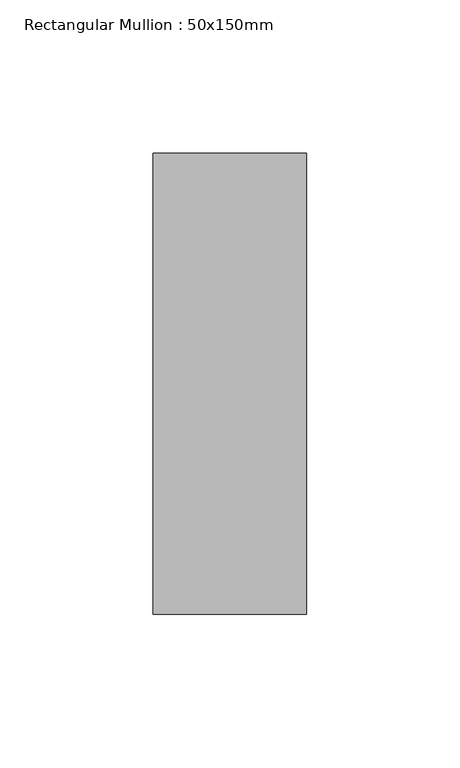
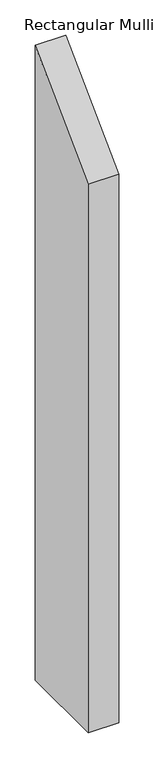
"""IFC4 building model written with IfcOpenShell, lengths in millimetres: member geometry, Rectangular Mullion : 50x150mm."""

from ifc_helpers import new_model, si_unit, frame, origin, place, context, project, spatial, polyline, outline, extrude, source, transform, mapped, element, save


def rectangular_mullion_50x150mm_ddefc81e(model_context):
    return source(origin(), model_context, "Body", "SweptSolid", [
        extrude(outline(polyline([(-75.0, -75.0), (75.0, 75.0), (75.0, -1025.5000001), (-75.0, -1025.5000001), (-75.0, -75.0)])), frame((-25.0, 0.0, 0.0), z_axis=(1.0, 0.0, 0.0), x_axis=(0.0, 1.0, 0.0)), (0.0, 0.0, 1.0), 50.0),
    ])


if __name__ == "__main__":
    model = new_model("IFC4")
    model_context = context("Model", 3, world=origin())
    ifc_project = project(units=[si_unit("LENGTHUNIT", "METRE", prefix="MILLI")], contexts=[model_context])
    site = spatial("IfcSite", under=ifc_project)
    building = spatial("IfcBuilding", under=site)
    placement = place(None, origin())
    rectangular_mullion_50x150mm_shape = rectangular_mullion_50x150mm_ddefc81e(model_context)
    element("IfcMember", 1, ObjectType="Rectangular Mullion : 50x150mm", at=placement, inside=building, context=model_context, shape_type="MappedRepresentation", body=[
        mapped(rectangular_mullion_50x150mm_shape, transform((0.0, 0.0, 0.0), x_axis=(1.0, 0.0, 0.0), y_axis=(0.0, 1.0, 0.0), z_axis=(0.0, 0.0, 1.0))),
    ])
    save(model, "model.ifc")
